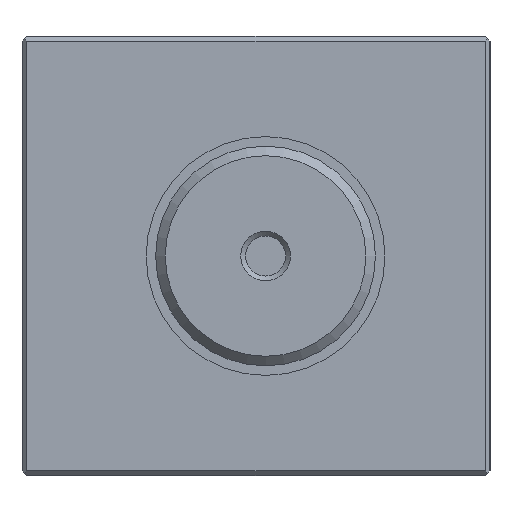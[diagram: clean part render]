
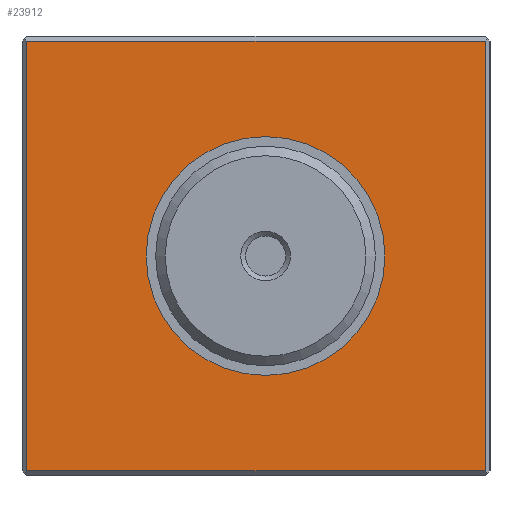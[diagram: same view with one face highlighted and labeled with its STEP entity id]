
A CAD part, left-side view. The second image highlights one B-rep face of the part: STEP entity #23912.
In plain terms, the highlighted planar face has unit normal (-1, 0, 0).
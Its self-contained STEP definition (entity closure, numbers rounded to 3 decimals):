
#389 = CARTESIAN_POINT ( 'NONE',  ( 0., -0.5, 0. ) ) ;
#2027 = CARTESIAN_POINT ( 'NONE',  ( 0., -23.5, -22.5 ) ) ;
#2522 = FACE_BOUND ( 'NONE', #51931, .T. ) ;
#2816 = CARTESIAN_POINT ( 'NONE',  ( 0., 25., -23. ) ) ;
#3044 = ORIENTED_EDGE ( 'NONE', *, *, #18239, .T. ) ;
#3222 = VECTOR ( 'NONE', #7440, 1000. ) ;
#3255 = CARTESIAN_POINT ( 'NONE',  ( 0., -13., 0. ) ) ;
#3769 = CARTESIAN_POINT ( 'NONE',  ( 0., 25., -22.5 ) ) ;
#4655 = EDGE_CURVE ( 'NONE', #29721, #23103, #15641, .T. ) ;
#4751 = VECTOR ( 'NONE', #33767, 1000. ) ;
#5272 = CARTESIAN_POINT ( 'NONE',  ( 0., 24.5, -23. ) ) ;
#7440 = DIRECTION ( 'NONE',  ( 0., 1., 0. ) ) ;
#7627 = ORIENTED_EDGE ( 'NONE', *, *, #43872, .T. ) ;
#8887 = FACE_OUTER_BOUND ( 'NONE', #11236, .T. ) ;
#9999 = VERTEX_POINT ( 'NONE', #3255 ) ;
#11236 = EDGE_LOOP ( 'NONE', ( #7627, #3044, #46583, #22540 ) ) ;
#14255 = AXIS2_PLACEMENT_3D ( 'NONE', #389, #24864, #49114 ) ;
#15606 = CARTESIAN_POINT ( 'NONE',  ( 0., -23.5, 22.5 ) ) ;
#15641 = LINE ( 'NONE', #5272, #4751 ) ;
#18220 = ORIENTED_EDGE ( 'NONE', *, *, #19525, .F. ) ;
#18239 = EDGE_CURVE ( 'NONE', #30193, #49219, #48736, .T. ) ;
#19115 = CIRCLE ( 'NONE', #14255, 12.5 ) ;
#19525 = EDGE_CURVE ( 'NONE', #9999, #9999, #19115, .T. ) ;
#22540 = ORIENTED_EDGE ( 'NONE', *, *, #4655, .T. ) ;
#22785 = CARTESIAN_POINT ( 'NONE',  ( 0., 24.5, 22.5 ) ) ;
#23103 = VERTEX_POINT ( 'NONE', #23904 ) ;
#23904 = CARTESIAN_POINT ( 'NONE',  ( 0., 24.5, -22.5 ) ) ;
#23912 = ADVANCED_FACE ( 'NONE', ( #8887, #2522 ), #41793, .T. ) ;
#24864 = DIRECTION ( 'NONE',  ( -1., 0., 0. ) ) ;
#26838 = LINE ( 'NONE', #3769, #37570 ) ;
#27208 = VECTOR ( 'NONE', #42368, 1000. ) ;
#27272 = DIRECTION ( 'NONE',  ( -1., 0., 0. ) ) ;
#29721 = VERTEX_POINT ( 'NONE', #22785 ) ;
#30193 = VERTEX_POINT ( 'NONE', #2027 ) ;
#33767 = DIRECTION ( 'NONE',  ( 0., 0., -1. ) ) ;
#34457 = LINE ( 'NONE', #44269, #3222 ) ;
#37570 = VECTOR ( 'NONE', #40601, 1000. ) ;
#38340 = EDGE_CURVE ( 'NONE', #49219, #29721, #34457, .T. ) ;
#38604 = CARTESIAN_POINT ( 'NONE',  ( 0., -23.5, -23. ) ) ;
#40601 = DIRECTION ( 'NONE',  ( 0., -1., 0. ) ) ;
#41793 = PLANE ( 'NONE',  #42183 ) ;
#42183 = AXIS2_PLACEMENT_3D ( 'NONE', #2816, #27272, #51588 ) ;
#42368 = DIRECTION ( 'NONE',  ( 0., 0., 1. ) ) ;
#43872 = EDGE_CURVE ( 'NONE', #23103, #30193, #26838, .T. ) ;
#44269 = CARTESIAN_POINT ( 'NONE',  ( 0., 25., 22.5 ) ) ;
#46583 = ORIENTED_EDGE ( 'NONE', *, *, #38340, .T. ) ;
#48736 = LINE ( 'NONE', #38604, #27208 ) ;
#49114 = DIRECTION ( 'NONE',  ( 0., -1., 0. ) ) ;
#49219 = VERTEX_POINT ( 'NONE', #15606 ) ;
#51588 = DIRECTION ( 'NONE',  ( 0., -1., 0. ) ) ;
#51931 = EDGE_LOOP ( 'NONE', ( #18220 ) ) ;
